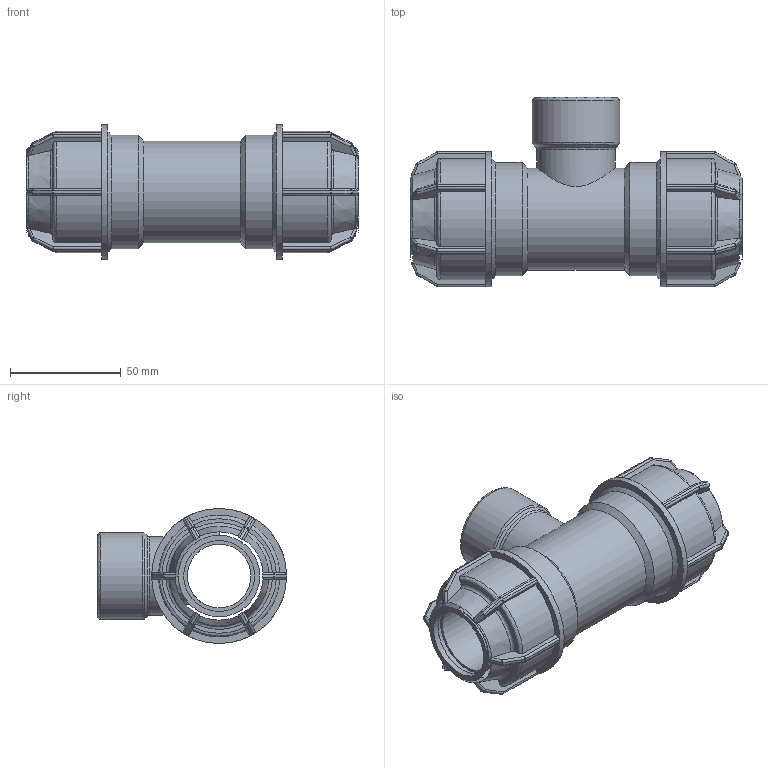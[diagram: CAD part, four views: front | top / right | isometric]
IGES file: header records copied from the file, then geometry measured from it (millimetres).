
Global section: file name: 141400032010.ipt; native system: Autodesk Inventor 2015; preprocessor: unknown; author: KIM; date: 20180416.111608; units: millimetre
Bounding box: 150 x 85.5 x 61 mm (x, y, z)
Volume: 195554.6 mm3; surface area: 53391.7 mm2
Topology: 1 solids, 1 shells, 412 faces, 1000 edges, 585 vertices
Faces by surface type: plane 194, cylinder 115, sphere 48, revolution 38, cone 17
Full cylindrical faces by diameter (mm): 35.44 x1, 39.378 x1, 46.08 x1, 51.2 x2, 61 x2
